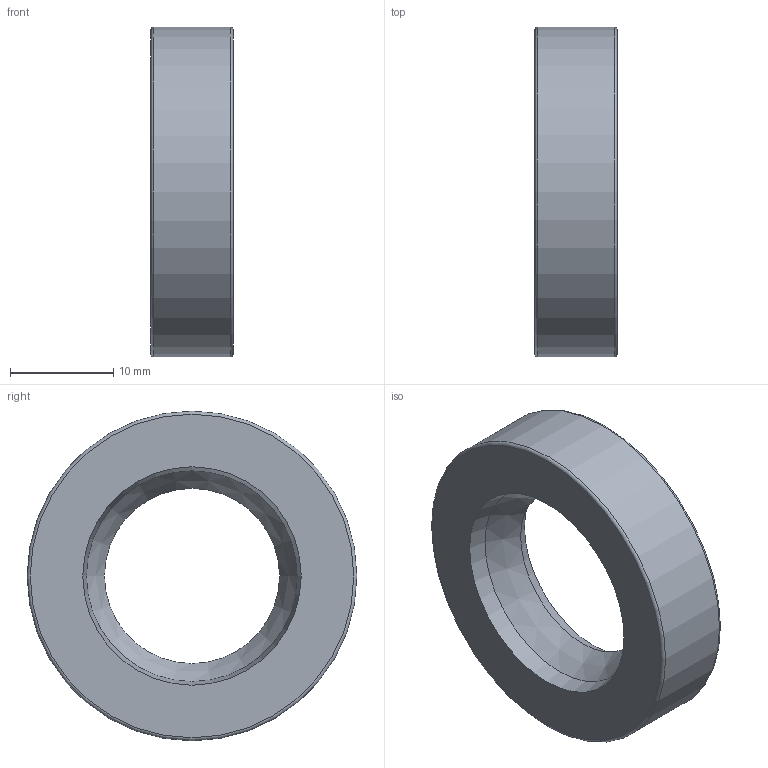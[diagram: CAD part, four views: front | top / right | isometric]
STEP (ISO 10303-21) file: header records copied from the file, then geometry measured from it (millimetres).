
FILE_DESCRIPTION(/* description */ ('오일-실'),/* implementation_level */ '2;1');
FILE_NAME(/* name */ '',/* time_stamp */ '2026-07-02T16:38:21+09:00',/* author */ ('jhkim'),/* organization */ (''),/* preprocessor_version */ 'ST-DEVELOPER v20.1',/* originating_system */ 'Autodesk Inventor 2027',/* authorisation */ '');
FILE_SCHEMA (('AUTOMOTIVE_DESIGN { 1 0 10303 214 3 1 1 }'));
Length unit declared in the file: millimetre
Products named in the file (1): 오일 실 17 32 8
Bounding box: 8 x 32 x 32 mm (x, y, z)
Volume: 2038 mm3; surface area: 3082.9 mm2
Topology: 1 solids, 1 shells, 15 faces, 31 edges, 20 vertices
Faces by surface type: torus 4, plane 4, cone 4, cylinder 3
Full cylindrical faces by diameter (mm): 21.2 x1, 29.5 x1, 32 x1
Entity records: 460 total; most frequent: DIRECTION 87, CARTESIAN_POINT 67, ORIENTED_EDGE 62, AXIS2_PLACEMENT_3D 40, EDGE_CURVE 31, CIRCLE 24, VERTEX_POINT 20, EDGE_LOOP 19
